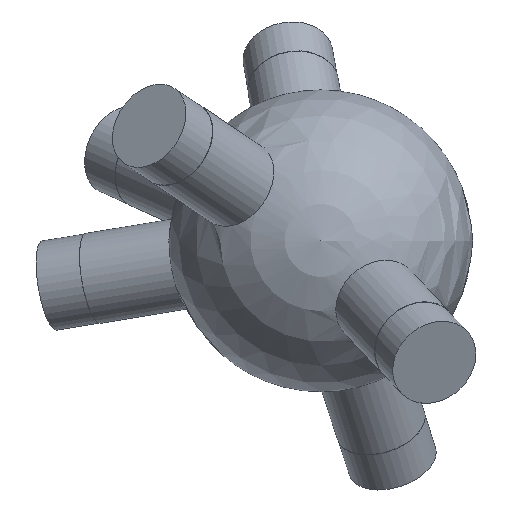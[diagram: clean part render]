
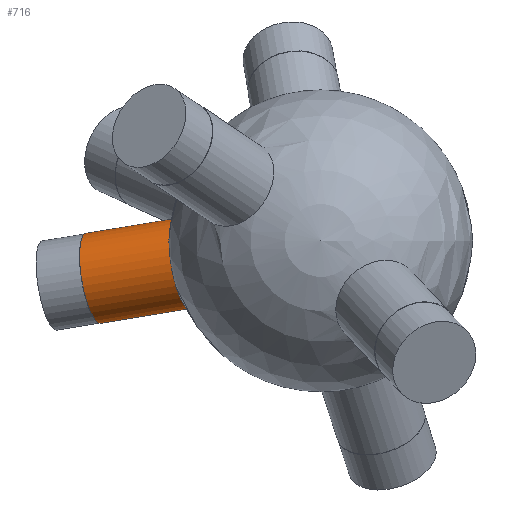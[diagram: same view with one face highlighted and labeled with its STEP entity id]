
A CAD part, top view. The second image highlights one B-rep face of the part: STEP entity #716.
In plain terms, the highlighted cylindrical face has radius 6 mm (diameter 12 mm), a full revolution.
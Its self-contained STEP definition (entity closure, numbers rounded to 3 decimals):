
#35 = SPHERICAL_SURFACE('',#36,20.);
#36 = AXIS2_PLACEMENT_3D('',#37,#38,#39);
#37 = CARTESIAN_POINT('',(0.,0.,0.));
#38 = DIRECTION('',(0.,0.,1.));
#39 = DIRECTION('',(1.,0.,-0.));
#230 = EDGE_CURVE('',#231,#231,#233,.T.);
#231 = VERTEX_POINT('',#232);
#232 = CARTESIAN_POINT('',(-16.639,-2.987,-10.688
    ));
#233 = SURFACE_CURVE('',#234,(#239,#294),.PCURVE_S1.);
#234 = CIRCLE('',#235,6.);
#235 = AXIS2_PLACEMENT_3D('',#236,#237,#238);
#236 = CARTESIAN_POINT('',(-18.197,-2.987,
    -4.894));
#237 = DIRECTION('',(-0.954,-0.157,-0.256));
#238 = DIRECTION('',(0.26,0.,-0.966)
  );
#239 = PCURVE('',#35,#240);
#240 = DEFINITIONAL_REPRESENTATION('',(#241),#293);
#241 = B_SPLINE_CURVE_WITH_KNOTS('',8,(#242,#243,#244,#245,#246,#247,
    #248,#249,#250,#251,#252,#253,#254,#255,#256,#257,#258,#259,#260,
    #261,#262,#263,#264,#265,#266,#267,#268,#269,#270,#271,#272,#273,
    #274,#275,#276,#277,#278,#279,#280,#281,#282,#283,#284,#285,#286,
    #287,#288,#289,#290,#291,#292),.UNSPECIFIED.,.T.,.F.,(9,7,7,7,7,7,7,
    9),(0.,0.785,1.473,2.675,3.577,
    4.93,5.607,6.283),.UNSPECIFIED.);
#242 = CARTESIAN_POINT('',(3.319,-0.564));
#243 = CARTESIAN_POINT('',(3.354,-0.562));
#244 = CARTESIAN_POINT('',(3.389,-0.557));
#245 = CARTESIAN_POINT('',(3.422,-0.548));
#246 = CARTESIAN_POINT('',(3.454,-0.536));
#247 = CARTESIAN_POINT('',(3.483,-0.52));
#248 = CARTESIAN_POINT('',(3.51,-0.501));
#249 = CARTESIAN_POINT('',(3.533,-0.48));
#250 = CARTESIAN_POINT('',(3.57,-0.436));
#251 = CARTESIAN_POINT('',(3.585,-0.414));
#252 = CARTESIAN_POINT('',(3.598,-0.391));
#253 = CARTESIAN_POINT('',(3.607,-0.366));
#254 = CARTESIAN_POINT('',(3.614,-0.341));
#255 = CARTESIAN_POINT('',(3.619,-0.316));
#256 = CARTESIAN_POINT('',(3.62,-0.29));
#257 = CARTESIAN_POINT('',(3.619,-0.219));
#258 = CARTESIAN_POINT('',(3.61,-0.174));
#259 = CARTESIAN_POINT('',(3.594,-0.131));
#260 = CARTESIAN_POINT('',(3.571,-0.09));
#261 = CARTESIAN_POINT('',(3.542,-0.054));
#262 = CARTESIAN_POINT('',(3.508,-0.023));
#263 = CARTESIAN_POINT('',(3.47,0.002));
#264 = CARTESIAN_POINT('',(3.397,0.033));
#265 = CARTESIAN_POINT('',(3.364,0.043));
#266 = CARTESIAN_POINT('',(3.331,0.048));
#267 = CARTESIAN_POINT('',(3.296,0.049));
#268 = CARTESIAN_POINT('',(3.262,0.046));
#269 = CARTESIAN_POINT('',(3.228,0.039));
#270 = CARTESIAN_POINT('',(3.196,0.028));
#271 = CARTESIAN_POINT('',(3.12,-0.01));
#272 = CARTESIAN_POINT('',(3.079,-0.041));
#273 = CARTESIAN_POINT('',(3.044,-0.079));
#274 = CARTESIAN_POINT('',(3.016,-0.123));
#275 = CARTESIAN_POINT('',(2.996,-0.172));
#276 = CARTESIAN_POINT('',(2.985,-0.223));
#277 = CARTESIAN_POINT('',(2.984,-0.275));
#278 = CARTESIAN_POINT('',(2.998,-0.35));
#279 = CARTESIAN_POINT('',(3.005,-0.374));
#280 = CARTESIAN_POINT('',(3.015,-0.398));
#281 = CARTESIAN_POINT('',(3.027,-0.421));
#282 = CARTESIAN_POINT('',(3.042,-0.443));
#283 = CARTESIAN_POINT('',(3.059,-0.464));
#284 = CARTESIAN_POINT('',(3.079,-0.482));
#285 = CARTESIAN_POINT('',(3.122,-0.515));
#286 = CARTESIAN_POINT('',(3.146,-0.53));
#287 = CARTESIAN_POINT('',(3.172,-0.542));
#288 = CARTESIAN_POINT('',(3.2,-0.552));
#289 = CARTESIAN_POINT('',(3.229,-0.559));
#290 = CARTESIAN_POINT('',(3.259,-0.563));
#291 = CARTESIAN_POINT('',(3.289,-0.565));
#292 = CARTESIAN_POINT('',(3.319,-0.564));
#293 = ( GEOMETRIC_REPRESENTATION_CONTEXT(2) 
PARAMETRIC_REPRESENTATION_CONTEXT() REPRESENTATION_CONTEXT('2D SPACE',''
  ) );
#294 = PCURVE('',#295,#300);
#295 = CYLINDRICAL_SURFACE('',#296,6.);
#296 = AXIS2_PLACEMENT_3D('',#297,#298,#299);
#297 = CARTESIAN_POINT('',(0.,0.,0.));
#298 = DIRECTION('',(-0.954,-0.157,-0.256));
#299 = DIRECTION('',(0.26,0.,-0.966)
  );
#300 = DEFINITIONAL_REPRESENTATION('',(#301),#305);
#301 = LINE('',#302,#303);
#302 = CARTESIAN_POINT('',(0.,19.079));
#303 = VECTOR('',#304,1.);
#304 = DIRECTION('',(1.,0.));
#305 = ( GEOMETRIC_REPRESENTATION_CONTEXT(2) 
PARAMETRIC_REPRESENTATION_CONTEXT() REPRESENTATION_CONTEXT('2D SPACE',''
  ) );
#716 = ADVANCED_FACE('',(#717),#295,.T.);
#717 = FACE_BOUND('',#718,.T.);
#718 = EDGE_LOOP('',(#719,#742,#769,#770));
#719 = ORIENTED_EDGE('',*,*,#720,.T.);
#720 = EDGE_CURVE('',#231,#721,#723,.T.);
#721 = VERTEX_POINT('',#722);
#722 = CARTESIAN_POINT('',(-28.411,-4.92,
    -13.854));
#723 = SEAM_CURVE('',#724,(#728,#735),.PCURVE_S1.);
#724 = LINE('',#725,#726);
#725 = CARTESIAN_POINT('',(1.558,0.,
    -5.794));
#726 = VECTOR('',#727,1.);
#727 = DIRECTION('',(-0.954,-0.157,-0.256));
#728 = PCURVE('',#295,#729);
#729 = DEFINITIONAL_REPRESENTATION('',(#730),#734);
#730 = LINE('',#731,#732);
#731 = CARTESIAN_POINT('',(6.283,-0.));
#732 = VECTOR('',#733,1.);
#733 = DIRECTION('',(0.,1.));
#734 = ( GEOMETRIC_REPRESENTATION_CONTEXT(2) 
PARAMETRIC_REPRESENTATION_CONTEXT() REPRESENTATION_CONTEXT('2D SPACE',''
  ) );
#735 = PCURVE('',#295,#736);
#736 = DEFINITIONAL_REPRESENTATION('',(#737),#741);
#737 = LINE('',#738,#739);
#738 = CARTESIAN_POINT('',(0.,-0.));
#739 = VECTOR('',#740,1.);
#740 = DIRECTION('',(0.,1.));
#741 = ( GEOMETRIC_REPRESENTATION_CONTEXT(2) 
PARAMETRIC_REPRESENTATION_CONTEXT() REPRESENTATION_CONTEXT('2D SPACE',''
  ) );
#742 = ORIENTED_EDGE('',*,*,#743,.F.);
#743 = EDGE_CURVE('',#721,#721,#744,.T.);
#744 = SURFACE_CURVE('',#745,(#750,#757),.PCURVE_S1.);
#745 = CIRCLE('',#746,6.);
#746 = AXIS2_PLACEMENT_3D('',#747,#748,#749);
#747 = CARTESIAN_POINT('',(-29.97,-4.92,-8.06
    ));
#748 = DIRECTION('',(-0.954,-0.157,-0.256));
#749 = DIRECTION('',(0.26,0.,-0.966)
  );
#750 = PCURVE('',#295,#751);
#751 = DEFINITIONAL_REPRESENTATION('',(#752),#756);
#752 = LINE('',#753,#754);
#753 = CARTESIAN_POINT('',(0.,31.422));
#754 = VECTOR('',#755,1.);
#755 = DIRECTION('',(1.,0.));
#756 = ( GEOMETRIC_REPRESENTATION_CONTEXT(2) 
PARAMETRIC_REPRESENTATION_CONTEXT() REPRESENTATION_CONTEXT('2D SPACE',''
  ) );
#757 = PCURVE('',#758,#763);
#758 = PLANE('',#759);
#759 = AXIS2_PLACEMENT_3D('',#760,#761,#762);
#760 = CARTESIAN_POINT('',(-29.97,-4.92,-8.06
    ));
#761 = DIRECTION('',(-0.954,-0.157,-0.256));
#762 = DIRECTION('',(0.26,0.,-0.966)
  );
#763 = DEFINITIONAL_REPRESENTATION('',(#764),#768);
#764 = CIRCLE('',#765,6.);
#765 = AXIS2_PLACEMENT_2D('',#766,#767);
#766 = CARTESIAN_POINT('',(0.,0.));
#767 = DIRECTION('',(1.,0.));
#768 = ( GEOMETRIC_REPRESENTATION_CONTEXT(2) 
PARAMETRIC_REPRESENTATION_CONTEXT() REPRESENTATION_CONTEXT('2D SPACE',''
  ) );
#769 = ORIENTED_EDGE('',*,*,#720,.F.);
#770 = ORIENTED_EDGE('',*,*,#230,.T.);
